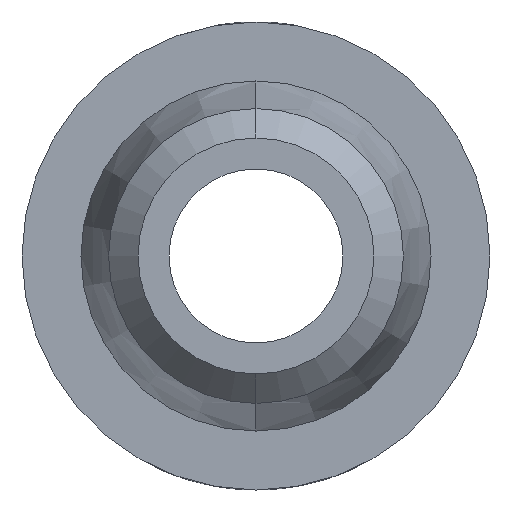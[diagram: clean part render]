
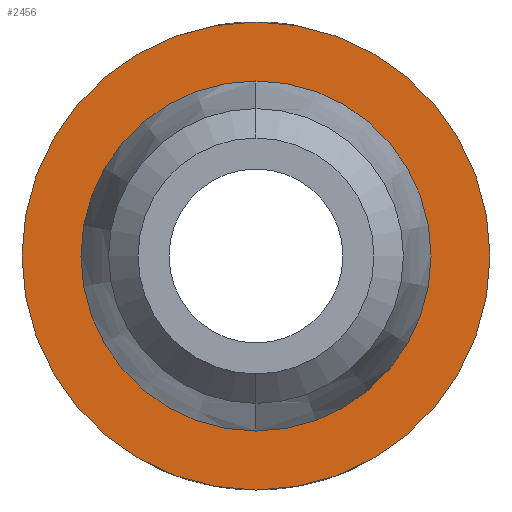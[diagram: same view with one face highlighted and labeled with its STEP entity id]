
A CAD part, left-side view. The second image highlights one B-rep face of the part: STEP entity #2456.
In plain terms, the highlighted planar face has unit normal (1, 0, 0).
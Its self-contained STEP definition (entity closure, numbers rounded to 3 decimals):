
#48=PLANE('',#2792);
#68=FACE_BOUND('',#311,.T.);
#135=CIRCLE('',#2793,3.175);
#136=CIRCLE('',#2794,2.375);
#215=FACE_OUTER_BOUND('',#310,.T.);
#310=EDGE_LOOP('',(#2009));
#311=EDGE_LOOP('',(#2010));
#1103=VERTEX_POINT('',#4742);
#1104=VERTEX_POINT('',#4744);
#1556=EDGE_CURVE('',#1103,#1103,#135,.T.);
#1557=EDGE_CURVE('',#1104,#1104,#136,.T.);
#2009=ORIENTED_EDGE('',*,*,#1556,.T.);
#2010=ORIENTED_EDGE('',*,*,#1557,.T.);
#2456=ADVANCED_FACE('',(#215,#68),#48,.T.);
#2792=AXIS2_PLACEMENT_3D('',#4741,#3064,#3065);
#2793=AXIS2_PLACEMENT_3D('',#4743,#3066,#3067);
#2794=AXIS2_PLACEMENT_3D('',#4745,#3068,#3069);
#3064=DIRECTION('center_axis',(1.,0.,0.));
#3065=DIRECTION('ref_axis',(0.,0.,-1.));
#3066=DIRECTION('center_axis',(1.,0.,0.));
#3067=DIRECTION('ref_axis',(0.,0.,-1.));
#3068=DIRECTION('center_axis',(-1.,0.,0.));
#3069=DIRECTION('ref_axis',(0.,0.,
-1.));
#4741=CARTESIAN_POINT('Origin',(-4.5,-3.213,0.));
#4742=CARTESIAN_POINT('',(-4.5,0.,3.175));
#4743=CARTESIAN_POINT('Origin',(-4.5,0.,0.));
#4744=CARTESIAN_POINT('',(-4.5,0.,2.375));
#4745=CARTESIAN_POINT('Origin',(-4.5,0.,0.));
